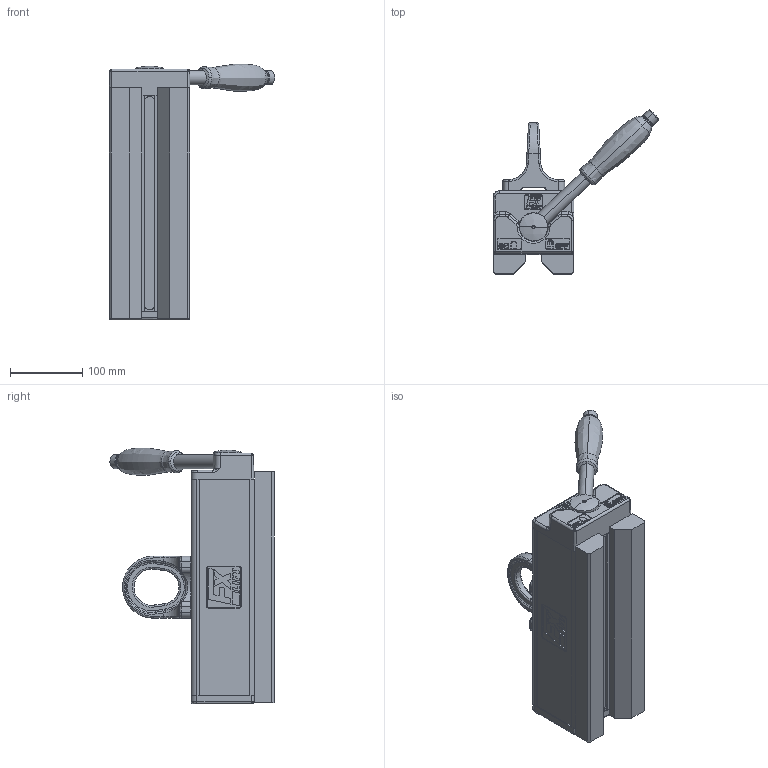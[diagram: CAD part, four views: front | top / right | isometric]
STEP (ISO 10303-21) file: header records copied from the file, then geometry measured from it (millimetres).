
FILE_DESCRIPTION (( 'STEP AP203' ), '1' );
FILE_NAME ('FX V 800 Vertrieb.STEP', '2016-09-22T06:35:25', ( '' ), ( '' ), 'SwSTEP 2.0', 'SolidWorks 2013', '' );
FILE_SCHEMA (( 'CONFIG_CONTROL_DESIGN' ));
Products named in the file (1): FX V 800 Vertrieb
Bounding box: 229.63 x 227.56 x 354.95 mm (x, y, z)
Surface area: 277682.7 mm2 (no closed solid volume)
Topology: 0 solids, 2 shells, 1327 faces, 3418 edges, 1975 vertices
Faces by surface type: bspline 478, plane 435, cylinder 356, cone 36, torus 16, sphere 6
Entity records: 62722 total; most frequent: CARTESIAN_POINT 35842, ORIENTED_EDGE 6473, DIRECTION 4204, EDGE_CURVE 3243, VERTEX_POINT 1975, LINE 1442, VECTOR 1442, EDGE_LOOP 1395
